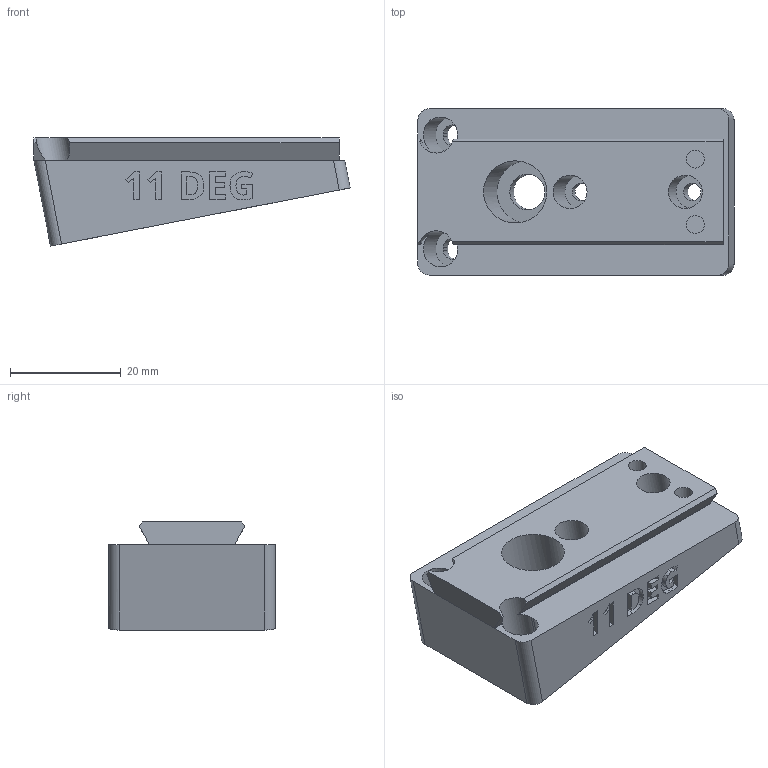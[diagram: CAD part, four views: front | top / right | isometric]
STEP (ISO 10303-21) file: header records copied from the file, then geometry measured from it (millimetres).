
FILE_DESCRIPTION(/* description */ ('STEP AP242 Edition 2','CAx-IF Rec.Pracs.---Representation and Presentation of Product Manufacturing Information (PMI)---4.0---2014-10-13','CAx-IF Rec.Pracs.---3D Tessellated Geometry---0.4---2014-09-14','2;1','CAx-IF Rec.Pracs.---User Defined Attributes---1.5---2016-08-15'),/* implementation_level */ '2;1');
FILE_NAME(/* name */ 'Camera Wedges - CAMERA MOUNTING WEDGE, POS, 11 DEG',/* time_stamp */ '2026-07-08T20:37:34Z',/* author */ (''),/* organization */ (''),/* preprocessor_version */ 'ST-DEVELOPER v20',/* originating_system */ 'ONSHAPE BY PTC INC, 1.217',/* authorisation */ ' ');
FILE_SCHEMA (('AP242_MANAGED_MODEL_BASED_3D_ENGINEERING_MIM_LF { 1 0 10303 442 3 1 4 }'));
Length unit declared in the file: metre
Products named in the file (1): CAMERA MOUNTING WEDGE, POS, 11 DEG
Bounding box: 56.98 x 30 x 19.5 mm (x, y, z)
Volume: 17318.9 mm3; surface area: 7529.6 mm2
Topology: 1 solids, 1 shells, 215 faces, 586 edges, 391 vertices
Faces by surface type: plane 147, cylinder 36, bspline 32
Full cylindrical faces by diameter (mm): 3.2 x4, 6 x2, 6.4 x1, 11.2 x1
Entity records: 6835 total; most frequent: CARTESIAN_POINT 1531, ORIENTED_EDGE 1150, DIRECTION 963, EDGE_CURVE 575, LINE 427, VECTOR 427, VERTEX_POINT 388, AXIS2_PLACEMENT_3D 268
